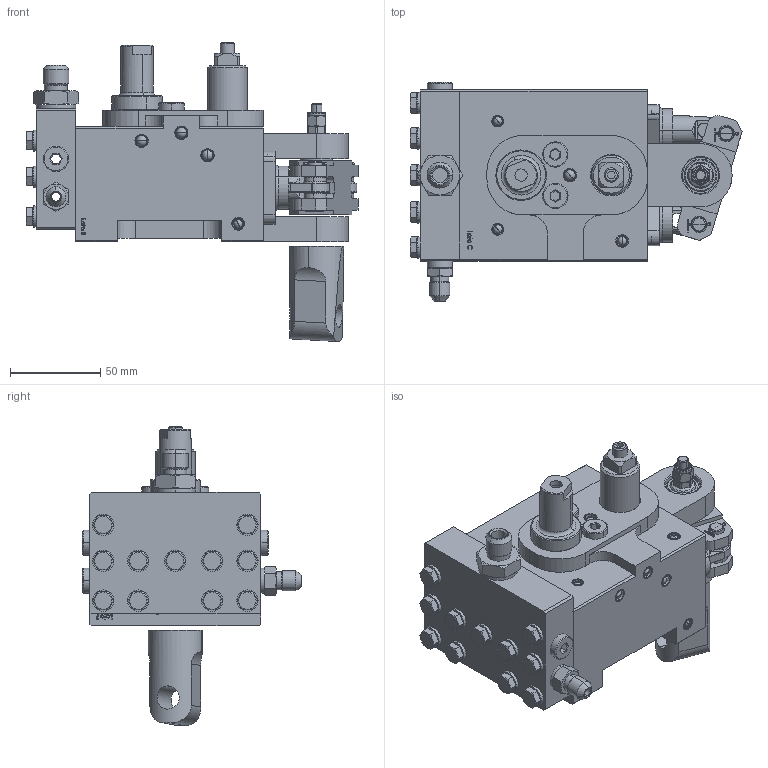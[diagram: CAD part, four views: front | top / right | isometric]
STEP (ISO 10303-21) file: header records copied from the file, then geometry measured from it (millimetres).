
FILE_DESCRIPTION (( 'STEP AP203' ), '1' );
FILE_NAME ('IPA_1225.STEP', '2018-05-30T10:55:03', ( 'utente' ), ( '' ), 'SwSTEP 2.0', 'SolidWorks 2015', '' );
FILE_SCHEMA (( 'CONFIG_CONTROL_DESIGN' ));
Length unit declared in the file: millimetre
Products named in the file (1): IPA_1225
Bounding box: 184.06 x 121.5 x 165.71 mm (x, y, z)
Surface area: 120677.2 mm2 (no closed solid volume)
Topology: 0 solids, 96 shells, 971 faces, 3148 edges, 2235 vertices
Faces by surface type: plane 443, cylinder 269, cone 162, torus 62, sphere 22, bspline 13
Entity records: 38740 total; most frequent: CARTESIAN_POINT 11414, DIRECTION 5753, ORIENTED_EDGE 5012, EDGE_CURVE 3126, VERTEX_POINT 2235, AXIS2_PLACEMENT_3D 2099, LINE 1555, VECTOR 1555
